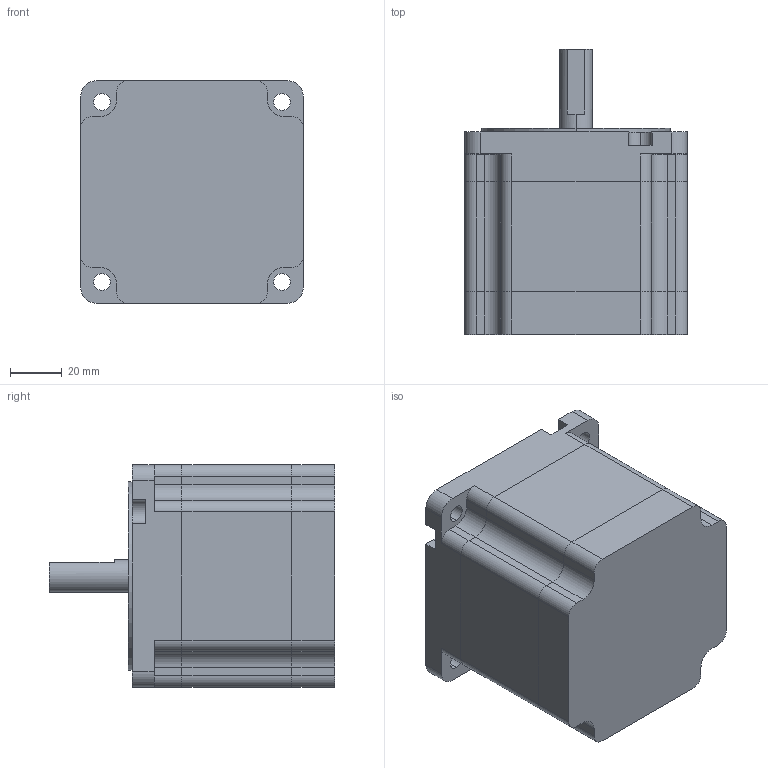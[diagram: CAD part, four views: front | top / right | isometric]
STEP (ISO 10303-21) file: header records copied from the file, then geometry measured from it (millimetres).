
FILE_DESCRIPTION (( 'STEP AP214' ), '1' );
FILE_NAME ('86A4.STEP', '2019-09-05T06:20:36', ( 'wimxt.com' ), ( 'wimxt.com' ), 'SwSTEP 2.0', 'SolidWorks 2014', '' );
FILE_SCHEMA (( 'AUTOMOTIVE_DESIGN' ));
Length unit declared in the file: millimetre
Products named in the file (4): 86A4菁釱; 86A4傷裔; 86A4隅赽; 86A4
Assembly tree (3 placements, depth 2):
  86A4
    86A4隅赽
    86A4傷裔
    86A4菁釱
Bounding box: 86 x 110.2 x 86 mm (x, y, z)
Volume: 276682 mm3; surface area: 78155.9 mm2
Topology: 3 solids, 3 shells, 149 faces, 413 edges, 275 vertices
Faces by surface type: cylinder 82, plane 65, cone 2
Entity records: 5034 total; most frequent: DIRECTION 888, CARTESIAN_POINT 849, ORIENTED_EDGE 826, EDGE_CURVE 413, AXIS2_PLACEMENT_3D 322, VERTEX_POINT 275, LINE 244, VECTOR 244
